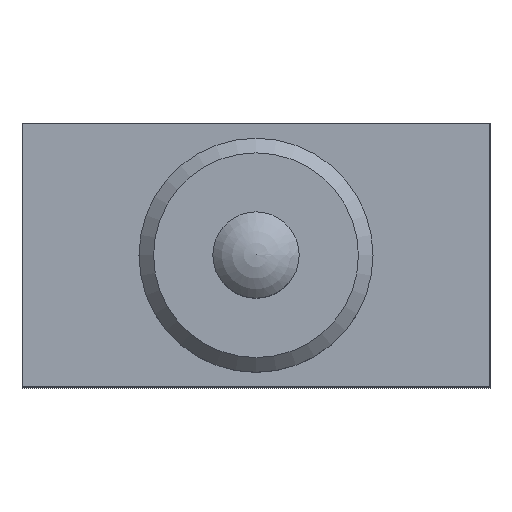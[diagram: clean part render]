
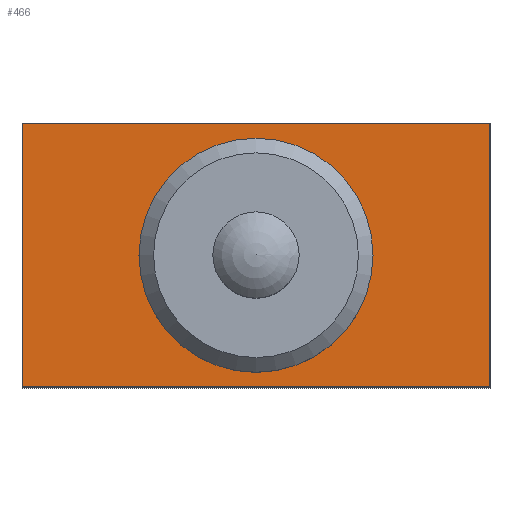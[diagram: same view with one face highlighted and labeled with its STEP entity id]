
A CAD part, top view. The second image highlights one B-rep face of the part: STEP entity #466.
In plain terms, the highlighted planar face has unit normal (0, 0, 1).
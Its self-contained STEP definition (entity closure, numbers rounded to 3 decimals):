
#237=CARTESIAN_POINT('',(8.,0.0,27.5));
#238=VERTEX_POINT('',#237);
#239=CARTESIAN_POINT('',(0.0,0.0,27.5));
#240=DIRECTION('',(0.0,0.0,-1.0));
#241=DIRECTION('',(1.0,0.0,0.0));
#242=AXIS2_PLACEMENT_3D('',#239,#240,#241);
#243=CIRCLE('',#242,8.);
#244=EDGE_CURVE('',#238,#238,#243,.T.);
#333=CARTESIAN_POINT('',(16.,9.,27.5));
#334=VERTEX_POINT('',#333);
#335=CARTESIAN_POINT('',(16.,-9.,27.5));
#336=VERTEX_POINT('',#335);
#337=CARTESIAN_POINT('',(16.,9.,27.5));
#338=DIRECTION('',(0.0,-1.0,0.0));
#339=VECTOR('',#338,18.);
#340=LINE('',#337,#339);
#341=EDGE_CURVE('',#334,#336,#340,.T.);
#373=CARTESIAN_POINT('',(-16.,-9.,27.5));
#374=VERTEX_POINT('',#373);
#375=CARTESIAN_POINT('',(16.,-9.,27.5));
#376=DIRECTION('',(-1.0,0.0,0.0));
#377=VECTOR('',#376,32.);
#378=LINE('',#375,#377);
#379=EDGE_CURVE('',#336,#374,#378,.T.);
#404=CARTESIAN_POINT('',(-16.,9.,27.5));
#405=VERTEX_POINT('',#404);
#406=CARTESIAN_POINT('',(-16.,-9.,27.5));
#407=DIRECTION('',(0.0,1.0,0.0));
#408=VECTOR('',#407,18.);
#409=LINE('',#406,#408);
#410=EDGE_CURVE('',#374,#405,#409,.T.);
#435=CARTESIAN_POINT('',(-16.,9.,27.5));
#436=DIRECTION('',(1.0,0.0,0.0));
#437=VECTOR('',#436,32.);
#438=LINE('',#435,#437);
#439=EDGE_CURVE('',#405,#334,#438,.T.);
#452=CARTESIAN_POINT('',(0.,0.,27.5));
#453=DIRECTION('',(0.0,0.0,1.0));
#454=DIRECTION('',(1.0,0.0,0.0));
#455=AXIS2_PLACEMENT_3D('',#452,#453,#454);
#456=PLANE('',#455);
#457=ORIENTED_EDGE('',*,*,#341,.F.);
#458=ORIENTED_EDGE('',*,*,#439,.F.);
#459=ORIENTED_EDGE('',*,*,#410,.F.);
#460=ORIENTED_EDGE('',*,*,#379,.F.);
#461=EDGE_LOOP('',(#457,#458,#459,#460));
#462=FACE_OUTER_BOUND('',#461,.T.);
#463=ORIENTED_EDGE('',*,*,#244,.T.);
#464=EDGE_LOOP('',(#463));
#465=FACE_BOUND('',#464,.T.);
#466=ADVANCED_FACE('',(#462,#465),#456,.T.);
